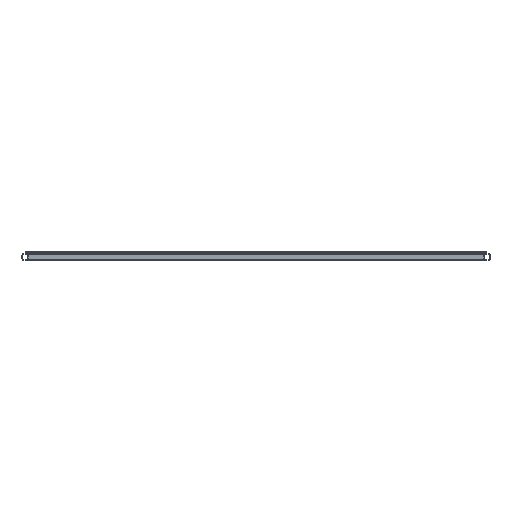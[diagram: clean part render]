
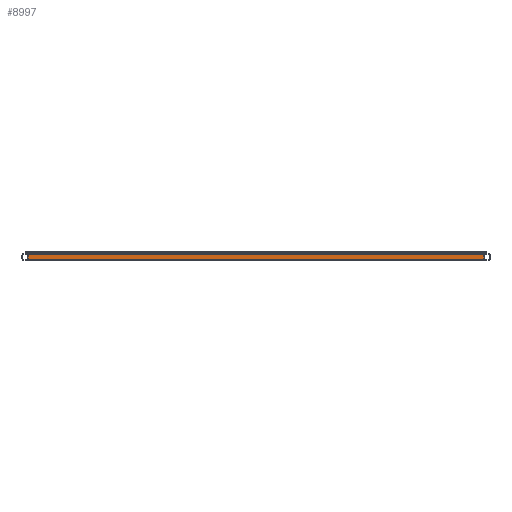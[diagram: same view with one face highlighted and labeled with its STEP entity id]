
A CAD part, front view. The second image highlights one B-rep face of the part: STEP entity #8997.
In plain terms, the highlighted planar face has unit normal (0, -1, 0).
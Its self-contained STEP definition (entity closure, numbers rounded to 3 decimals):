
#644 = DIRECTION ( 'NONE',  ( -1., 0., 0. ) ) ;
#1564 = CARTESIAN_POINT ( 'NONE',  ( 750., -844., -8. ) ) ;
#2256 = VECTOR ( 'NONE', #8321, 1000. ) ;
#2286 = ORIENTED_EDGE ( 'NONE', *, *, #9283, .F. ) ;
#2337 = CARTESIAN_POINT ( 'NONE',  ( 730., -844., 8. ) ) ;
#3682 = CARTESIAN_POINT ( 'NONE',  ( 750., -844., 8. ) ) ;
#3871 = ORIENTED_EDGE ( 'NONE', *, *, #6214, .T. ) ;
#4159 = EDGE_CURVE ( 'NONE', #7696, #7289, #8687, .T. ) ;
#4191 = CARTESIAN_POINT ( 'NONE',  ( -730., -844., 8. ) ) ;
#4441 = DIRECTION ( 'NONE',  ( -1., 0., 0. ) ) ;
#4776 = CARTESIAN_POINT ( 'NONE',  ( -730., -844., -8. ) ) ;
#5072 = VECTOR ( 'NONE', #4441, 1000. ) ;
#5180 = VECTOR ( 'NONE', #644, 1000. ) ;
#5581 = PLANE ( 'NONE',  #8142 ) ;
#5723 = EDGE_CURVE ( 'NONE', #11434, #8117, #9186, .T. ) ;
#5833 = EDGE_LOOP ( 'NONE', ( #10171, #2286, #8839, #3871 ) ) ;
#6144 = CARTESIAN_POINT ( 'NONE',  ( -730., -844., -8. ) ) ;
#6214 = EDGE_CURVE ( 'NONE', #7696, #8117, #7918, .T. ) ;
#7289 = VERTEX_POINT ( 'NONE', #8644 ) ;
#7696 = VERTEX_POINT ( 'NONE', #2337 ) ;
#7861 = CARTESIAN_POINT ( 'NONE',  ( 750., -844., -8. ) ) ;
#7918 = LINE ( 'NONE', #3682, #5072 ) ;
#8117 = VERTEX_POINT ( 'NONE', #4191 ) ;
#8142 = AXIS2_PLACEMENT_3D ( 'NONE', #1564, #11076, #8475 ) ;
#8321 = DIRECTION ( 'NONE',  ( 0., 0., 1. ) ) ;
#8475 = DIRECTION ( 'NONE',  ( 0., 0., 1. ) ) ;
#8629 = CARTESIAN_POINT ( 'NONE',  ( 730., -844., -8. ) ) ;
#8644 = CARTESIAN_POINT ( 'NONE',  ( 730., -844., -8. ) ) ;
#8687 = LINE ( 'NONE', #8629, #11331 ) ;
#8796 = DIRECTION ( 'NONE',  ( 0., 0., -1. ) ) ;
#8839 = ORIENTED_EDGE ( 'NONE', *, *, #4159, .F. ) ;
#8997 = ADVANCED_FACE ( 'NONE', ( #10808 ), #5581, .F. ) ;
#9186 = LINE ( 'NONE', #4776, #2256 ) ;
#9283 = EDGE_CURVE ( 'NONE', #7289, #11434, #11225, .T. ) ;
#10171 = ORIENTED_EDGE ( 'NONE', *, *, #5723, .F. ) ;
#10808 = FACE_OUTER_BOUND ( 'NONE', #5833, .T. ) ;
#11076 = DIRECTION ( 'NONE',  ( 0., 1., 0. ) ) ;
#11225 = LINE ( 'NONE', #7861, #5180 ) ;
#11331 = VECTOR ( 'NONE', #8796, 1000. ) ;
#11434 = VERTEX_POINT ( 'NONE', #6144 ) ;
